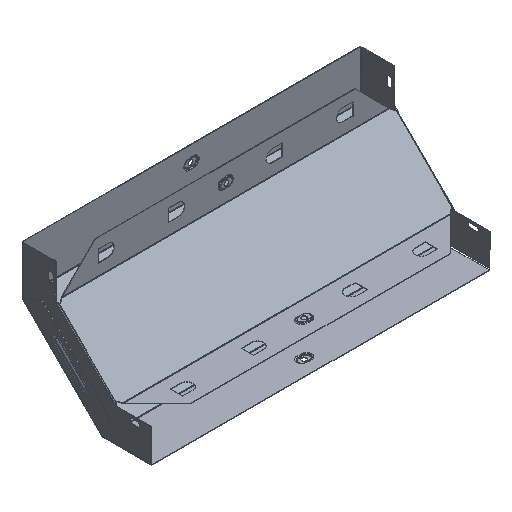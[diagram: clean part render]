
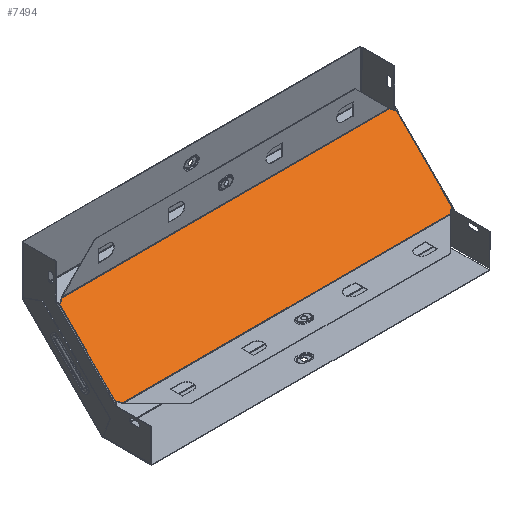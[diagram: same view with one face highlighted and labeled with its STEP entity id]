
A CAD part, isometric view. The second image highlights one B-rep face of the part: STEP entity #7494.
In plain terms, the highlighted planar face has unit normal (0, -0.707, 0.707).
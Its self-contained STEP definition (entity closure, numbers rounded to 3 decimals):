
#22 = DIRECTION ( 'NONE',  ( 0., 0.707, -0.707 ) ) ;
#108 = ORIENTED_EDGE ( 'NONE', *, *, #6192, .T. ) ;
#347 = CARTESIAN_POINT ( 'NONE',  ( 242.181, 69.707, 19.707 ) ) ;
#485 = EDGE_CURVE ( 'NONE', #3358, #2194, #2739, .T. ) ;
#529 = VERTEX_POINT ( 'NONE', #5079 ) ;
#543 = CARTESIAN_POINT ( 'NONE',  ( -248.2, 67.724, 17.724 ) ) ;
#557 = FACE_OUTER_BOUND ( 'NONE', #2872, .T. ) ;
#566 = LINE ( 'NONE', #4374, #7515 ) ;
#586 = CARTESIAN_POINT ( 'NONE',  ( -242.181, -19.707, -69.707 ) ) ;
#754 = CARTESIAN_POINT ( 'NONE',  ( 250.299, -19.208, -69.208 ) ) ;
#861 = CARTESIAN_POINT ( 'NONE',  ( -242.181, 69.707, 19.707 ) ) ;
#952 = CARTESIAN_POINT ( 'NONE',  ( -248.2, 70., 20. ) ) ;
#987 = LINE ( 'NONE', #5283, #3486 ) ;
#996 = VECTOR ( 'NONE', #2718, 1000. ) ;
#1164 = VECTOR ( 'NONE', #3049, 1000. ) ;
#1169 = EDGE_CURVE ( 'NONE', #1256, #529, #3441, .T. ) ;
#1256 = VERTEX_POINT ( 'NONE', #5685 ) ;
#1333 = LINE ( 'NONE', #7256, #4360 ) ;
#1430 = CARTESIAN_POINT ( 'NONE',  ( -250.299, 69.208, 19.208 ) ) ;
#1460 = CARTESIAN_POINT ( 'NONE',  ( 191.546, -55.512, -105.512 ) ) ;
#1972 = LINE ( 'NONE', #754, #5323 ) ;
#2054 = DIRECTION ( 'NONE',  ( -1., 0., 0. ) ) ;
#2089 = VECTOR ( 'NONE', #5627, 1000. ) ;
#2135 = DIRECTION ( 'NONE',  ( 0., 0.707, 0.707 ) ) ;
#2146 = ORIENTED_EDGE ( 'NONE', *, *, #2802, .F. ) ;
#2182 = VECTOR ( 'NONE', #7042, 1000. ) ;
#2190 = LINE ( 'NONE', #952, #2089 ) ;
#2194 = VERTEX_POINT ( 'NONE', #8651 ) ;
#2201 = EDGE_CURVE ( 'NONE', #4433, #3358, #1333, .T. ) ;
#2210 = CARTESIAN_POINT ( 'NONE',  ( -248.2, -17.724, -67.724 ) ) ;
#2321 = EDGE_CURVE ( 'NONE', #529, #6534, #1972, .T. ) ;
#2503 = ORIENTED_EDGE ( 'NONE', *, *, #485, .T. ) ;
#2718 = DIRECTION ( 'NONE',  ( -0.707, 0.5, 0.5 ) ) ;
#2736 = CARTESIAN_POINT ( 'NONE',  ( 248.2, -17.724, -67.724 ) ) ;
#2739 = LINE ( 'NONE', #8449, #1164 ) ;
#2794 = CARTESIAN_POINT ( 'NONE',  ( 246.592, 66.588, 16.588 ) ) ;
#2802 = EDGE_CURVE ( 'NONE', #1256, #3657, #6461, .T. ) ;
#2830 = EDGE_CURVE ( 'NONE', #3235, #4433, #6897, .T. ) ;
#2872 = EDGE_LOOP ( 'NONE', ( #4771, #7580, #6590, #2503, #3784, #108, #4933, #7376, #2146, #8202, #4841, #4406 ) ) ;
#2951 = DIRECTION ( 'NONE',  ( -0.707, -0.5, -0.5 ) ) ;
#3049 = DIRECTION ( 'NONE',  ( -0.707, -0.5, -0.5 ) ) ;
#3174 = AXIS2_PLACEMENT_3D ( 'NONE', #7444, #22, #2135 ) ;
#3199 = VECTOR ( 'NONE', #2054, 1000. ) ;
#3235 = VERTEX_POINT ( 'NONE', #2794 ) ;
#3265 = DIRECTION ( 'NONE',  ( -1., 0., 0. ) ) ;
#3358 = VERTEX_POINT ( 'NONE', #861 ) ;
#3441 = LINE ( 'NONE', #1460, #4708 ) ;
#3461 = CARTESIAN_POINT ( 'NONE',  ( 248.2, -19.707, -69.707 ) ) ;
#3486 = VECTOR ( 'NONE', #8177, 1000. ) ;
#3569 = CARTESIAN_POINT ( 'NONE',  ( 248.2, 67.724, 17.724 ) ) ;
#3612 = LINE ( 'NONE', #1430, #996 ) ;
#3641 = VERTEX_POINT ( 'NONE', #543 ) ;
#3657 = VERTEX_POINT ( 'NONE', #586 ) ;
#3726 = VECTOR ( 'NONE', #4110, 1000. ) ;
#3784 = ORIENTED_EDGE ( 'NONE', *, *, #3851, .T. ) ;
#3851 = EDGE_CURVE ( 'NONE', #2194, #3641, #3612, .T. ) ;
#4110 = DIRECTION ( 'NONE',  ( -0.707, 0.5, 0.5 ) ) ;
#4148 = CARTESIAN_POINT ( 'NONE',  ( 248.2, 70., 20. ) ) ;
#4223 = EDGE_CURVE ( 'NONE', #4421, #3657, #987, .T. ) ;
#4360 = VECTOR ( 'NONE', #3265, 1000. ) ;
#4373 = VERTEX_POINT ( 'NONE', #2210 ) ;
#4374 = CARTESIAN_POINT ( 'NONE',  ( 250.299, 69.208, 19.208 ) ) ;
#4398 = CARTESIAN_POINT ( 'NONE',  ( -246.592, -16.588, -66.588 ) ) ;
#4406 = ORIENTED_EDGE ( 'NONE', *, *, #7930, .F. ) ;
#4421 = VERTEX_POINT ( 'NONE', #4398 ) ;
#4433 = VERTEX_POINT ( 'NONE', #347 ) ;
#4708 = VECTOR ( 'NONE', #6234, 1000. ) ;
#4771 = ORIENTED_EDGE ( 'NONE', *, *, #7215, .T. ) ;
#4841 = ORIENTED_EDGE ( 'NONE', *, *, #2321, .T. ) ;
#4857 = DIRECTION ( 'NONE',  ( 0., -0.707, -0.707 ) ) ;
#4933 = ORIENTED_EDGE ( 'NONE', *, *, #6279, .T. ) ;
#5079 = CARTESIAN_POINT ( 'NONE',  ( 246.592, -16.588, -66.588 ) ) ;
#5283 = CARTESIAN_POINT ( 'NONE',  ( -191.546, -55.512, -105.512 ) ) ;
#5323 = VECTOR ( 'NONE', #7350, 1000. ) ;
#5381 = VERTEX_POINT ( 'NONE', #3569 ) ;
#5478 = PLANE ( 'NONE',  #3174 ) ;
#5627 = DIRECTION ( 'NONE',  ( 0., -0.707, -0.707 ) ) ;
#5685 = CARTESIAN_POINT ( 'NONE',  ( 242.181, -19.707, -69.707 ) ) ;
#6192 = EDGE_CURVE ( 'NONE', #3641, #4373, #2190, .T. ) ;
#6234 = DIRECTION ( 'NONE',  ( 0.707, 0.5, 0.5 ) ) ;
#6279 = EDGE_CURVE ( 'NONE', #4373, #4421, #6368, .T. ) ;
#6368 = LINE ( 'NONE', #7775, #2182 ) ;
#6461 = LINE ( 'NONE', #3461, #3199 ) ;
#6534 = VERTEX_POINT ( 'NONE', #2736 ) ;
#6590 = ORIENTED_EDGE ( 'NONE', *, *, #2201, .T. ) ;
#6805 = CARTESIAN_POINT ( 'NONE',  ( 191.546, 105.512, 55.512 ) ) ;
#6897 = LINE ( 'NONE', #6805, #3726 ) ;
#7042 = DIRECTION ( 'NONE',  ( 0.707, 0.5, 0.5 ) ) ;
#7215 = EDGE_CURVE ( 'NONE', #5381, #3235, #566, .T. ) ;
#7256 = CARTESIAN_POINT ( 'NONE',  ( 248.2, 69.707, 19.707 ) ) ;
#7350 = DIRECTION ( 'NONE',  ( 0.707, -0.5, -0.5 ) ) ;
#7376 = ORIENTED_EDGE ( 'NONE', *, *, #4223, .T. ) ;
#7399 = VECTOR ( 'NONE', #4857, 1000. ) ;
#7444 = CARTESIAN_POINT ( 'NONE',  ( 248.2, 70., 20. ) ) ;
#7494 = ADVANCED_FACE ( 'NONE', ( #557 ), #5478, .F. ) ;
#7515 = VECTOR ( 'NONE', #2951, 1000. ) ;
#7580 = ORIENTED_EDGE ( 'NONE', *, *, #2830, .T. ) ;
#7775 = CARTESIAN_POINT ( 'NONE',  ( -250.299, -19.208, -69.208 ) ) ;
#7930 = EDGE_CURVE ( 'NONE', #5381, #6534, #8643, .T. ) ;
#8177 = DIRECTION ( 'NONE',  ( 0.707, -0.5, -0.5 ) ) ;
#8202 = ORIENTED_EDGE ( 'NONE', *, *, #1169, .T. ) ;
#8449 = CARTESIAN_POINT ( 'NONE',  ( -191.546, 105.512, 55.512 ) ) ;
#8643 = LINE ( 'NONE', #4148, #7399 ) ;
#8651 = CARTESIAN_POINT ( 'NONE',  ( -246.592, 66.588, 16.588 ) ) ;
